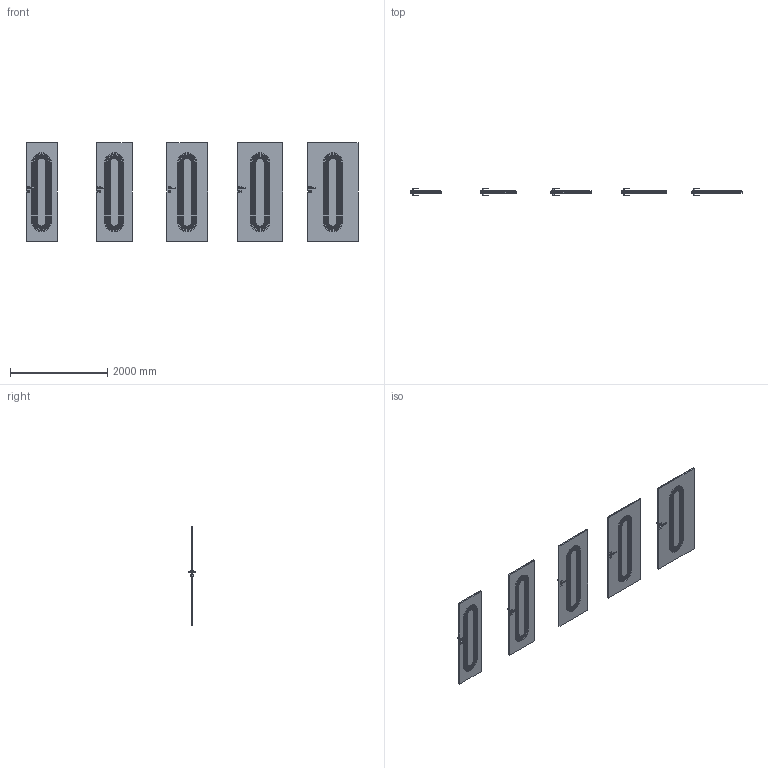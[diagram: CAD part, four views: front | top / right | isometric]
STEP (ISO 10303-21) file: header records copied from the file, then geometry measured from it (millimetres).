
FILE_DESCRIPTION(/* description */ (''),/* implementation_level */ '2;1');
FILE_NAME(/* name */ '049844_A_2-Skrzydło ART DECO model 3_ polska norma _PN__ odwrotna przylga..stp',/* time_stamp */ '2024-09-02T11:42:03+02:00',/* author */ (''),/* organization */ (''),/* preprocessor_version */ 'ST-DEVELOPER v16',/* originating_system */ 'SIEMENS PLM Software NX 11.0',/* authorisation */ '');
FILE_SCHEMA (('AUTOMOTIVE_DESIGN { 1 0 10303 214 3 1 1 1 }'));
Products named in the file (1): bkni1684CEC86f62
Bounding box: 6839 x 153.13 x 2027 mm (x, y, z)
Volume: 329773903.9 mm3; surface area: 18454195.3 mm2
Topology: 25 solids, 25 shells, 2190 faces, 4880 edges, 2740 vertices
Faces by surface type: plane 670, cylinder 620, torus 400, cone 200, bspline 160, sphere 140
Entity records: 64759 total; most frequent: CARTESIAN_POINT 16691, DIRECTION 10702, ORIENTED_EDGE 9480, EDGE_CURVE 4740, AXIS2_PLACEMENT_3D 4231, VERTEX_POINT 2740, EDGE_LOOP 2350, LINE 2240
